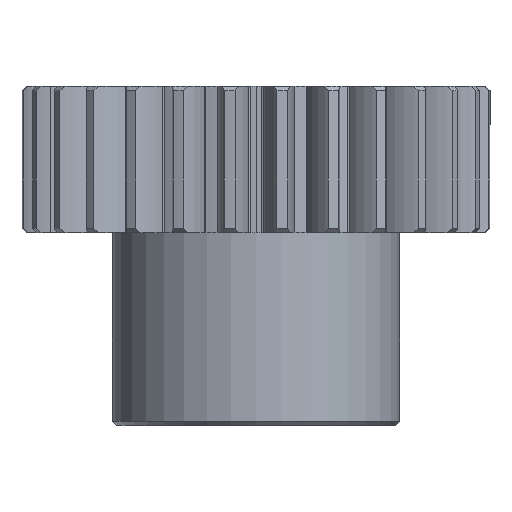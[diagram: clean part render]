
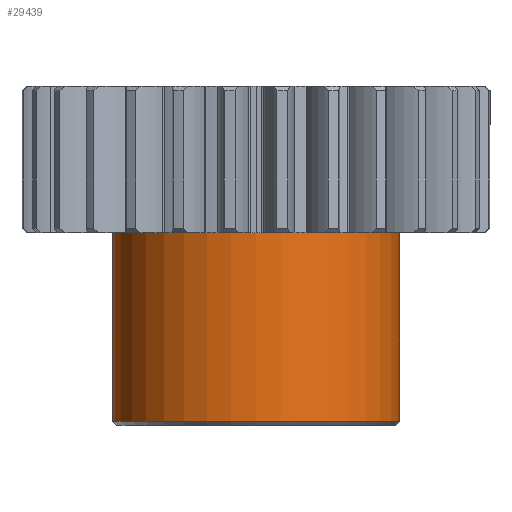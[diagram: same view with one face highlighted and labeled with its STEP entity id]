
A CAD part, left-side view. The second image highlights one B-rep face of the part: STEP entity #29439.
In plain terms, the highlighted cylindrical face has radius 27.5 mm (diameter 55 mm), a partial arc.
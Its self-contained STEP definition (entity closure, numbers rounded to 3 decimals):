
#1779 = VERTEX_POINT ( 'NONE', #14547 ) ;
#1861 = AXIS2_PLACEMENT_3D ( 'NONE', #4504, #22971, #30510 ) ;
#2623 = EDGE_CURVE ( 'NONE', #24974, #23287, #6072, .T. ) ;
#3099 = AXIS2_PLACEMENT_3D ( 'NONE', #12694, #26330, #5871 ) ;
#4504 = CARTESIAN_POINT ( 'NONE',  ( 0., 0., 0.825 ) ) ;
#4539 = LINE ( 'NONE', #26540, #5724 ) ;
#5223 = ORIENTED_EDGE ( 'NONE', *, *, #11032, .T. ) ;
#5724 = VECTOR ( 'NONE', #31983, 1000. ) ;
#5871 = DIRECTION ( 'NONE',  ( 0., 1., 0. ) ) ;
#6072 = CIRCLE ( 'NONE', #1861, 27.5 ) ;
#6836 = EDGE_CURVE ( 'NONE', #1779, #24974, #26247, .T. ) ;
#9441 = VECTOR ( 'NONE', #28395, 1000. ) ;
#9878 = CARTESIAN_POINT ( 'NONE',  ( 0., -27.5, 37. ) ) ;
#10408 = EDGE_CURVE ( 'NONE', #11388, #23287, #4539, .T. ) ;
#11032 = EDGE_CURVE ( 'NONE', #11388, #1779, #28097, .T. ) ;
#11388 = VERTEX_POINT ( 'NONE', #9878 ) ;
#11517 = ORIENTED_EDGE ( 'NONE', *, *, #10408, .F. ) ;
#12694 = CARTESIAN_POINT ( 'NONE',  ( 0., 0., 37. ) ) ;
#12711 = DIRECTION ( 'NONE',  ( 0., 1., 0. ) ) ;
#13543 = AXIS2_PLACEMENT_3D ( 'NONE', #14415, #17005, #12711 ) ;
#14415 = CARTESIAN_POINT ( 'NONE',  ( 0., 0., 0. ) ) ;
#14547 = CARTESIAN_POINT ( 'NONE',  ( 0., 27.5, 37. ) ) ;
#15949 = ORIENTED_EDGE ( 'NONE', *, *, #2623, .T. ) ;
#17005 = DIRECTION ( 'NONE',  ( 0., 0., -1. ) ) ;
#19258 = CYLINDRICAL_SURFACE ( 'NONE', #13543, 27.5 ) ;
#20010 = ORIENTED_EDGE ( 'NONE', *, *, #6836, .T. ) ;
#22971 = DIRECTION ( 'NONE',  ( 0., 0., 1. ) ) ;
#23287 = VERTEX_POINT ( 'NONE', #24569 ) ;
#24569 = CARTESIAN_POINT ( 'NONE',  ( 0., -27.5, 0.825 ) ) ;
#24778 = FACE_OUTER_BOUND ( 'NONE', #31538, .T. ) ;
#24974 = VERTEX_POINT ( 'NONE', #30280 ) ;
#26247 = LINE ( 'NONE', #30514, #9441 ) ;
#26330 = DIRECTION ( 'NONE',  ( 0., 0., -1. ) ) ;
#26540 = CARTESIAN_POINT ( 'NONE',  ( 0., -27.5, 0. ) ) ;
#28097 = CIRCLE ( 'NONE', #3099, 27.5 ) ;
#28395 = DIRECTION ( 'NONE',  ( 0., 0., -1. ) ) ;
#29439 = ADVANCED_FACE ( 'NONE', ( #24778 ), #19258, .T. ) ;
#30280 = CARTESIAN_POINT ( 'NONE',  ( 0., 27.5, 0.825 ) ) ;
#30510 = DIRECTION ( 'NONE',  ( 0., 1., 0. ) ) ;
#30514 = CARTESIAN_POINT ( 'NONE',  ( 0., 27.5, 0. ) ) ;
#31538 = EDGE_LOOP ( 'NONE', ( #11517, #5223, #20010, #15949 ) ) ;
#31983 = DIRECTION ( 'NONE',  ( 0., 0., -1. ) ) ;
